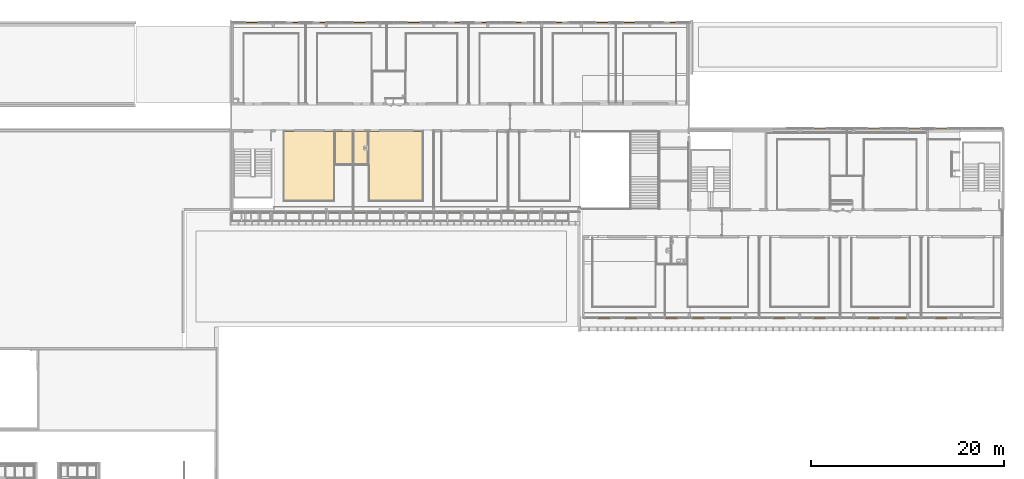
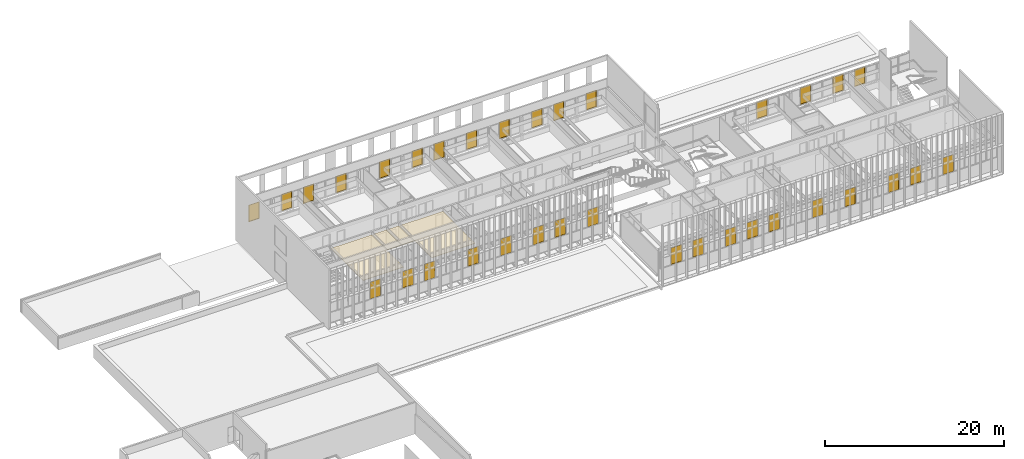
# One storey, part 102 of 106: 34 windows, 4 coverings, 4 elements without a shape of their own.
"""IFC2X3 building model written with IfcOpenShell, lengths in centimetres."""

from ifc_helpers import new_model, entity, si_unit, converted_unit, derived_unit, direction, frame, frame_2d, origin, place, context, subcontext, project, spatial, polyline, rectangle, outline, extrude, faceted_brep, source, transform, mapped, material, material_list, layer, layer_set, layer_usage, type_object, type_shapes, element, aggregate, save


model = new_model("IFC2X3")

# Units and contexts
model_context = context("Model", 3, precision=0.001, world=origin(), true_north=direction((6.12303176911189e-17, 1.0)))
body_context = subcontext(model_context, "Body", "Model", "MODEL_VIEW")
ifc_project = project(units=[si_unit("LENGTHUNIT", "METRE", prefix="CENTI"), si_unit("AREAUNIT", "SQUARE_METRE"), si_unit("VOLUMEUNIT", "CUBIC_METRE"), converted_unit("PLANEANGLEUNIT", "DEGREE", entity("IfcRatioMeasure", 0.0174532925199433), si_unit("PLANEANGLEUNIT", "RADIAN"), dimensions=[0, 0, 0, 0, 0, 0, 0]), si_unit("MASSUNIT", "GRAM", prefix="KILO"), derived_unit("MASSDENSITYUNIT", [(si_unit("MASSUNIT", "GRAM", prefix="KILO"), 1), (si_unit("LENGTHUNIT", "METRE"), -3)]), si_unit("TIMEUNIT", "SECOND"), si_unit("FREQUENCYUNIT", "HERTZ"), si_unit("THERMODYNAMICTEMPERATUREUNIT", "DEGREE_CELSIUS"), derived_unit("THERMALTRANSMITTANCEUNIT", [(si_unit("MASSUNIT", "GRAM", prefix="KILO"), 1), (si_unit("THERMODYNAMICTEMPERATUREUNIT", "KELVIN"), -1), (si_unit("TIMEUNIT", "SECOND"), -3)]), derived_unit("VOLUMETRICFLOWRATEUNIT", [(si_unit("LENGTHUNIT", "METRE"), 3), (si_unit("TIMEUNIT", "SECOND"), -1)]), si_unit("ELECTRICCURRENTUNIT", "AMPERE"), si_unit("ELECTRICVOLTAGEUNIT", "VOLT"), si_unit("POWERUNIT", "WATT"), si_unit("FORCEUNIT", "NEWTON", prefix="KILO"), si_unit("ILLUMINANCEUNIT", "LUX"), si_unit("LUMINOUSFLUXUNIT", "LUMEN"), si_unit("LUMINOUSINTENSITYUNIT", "CANDELA"), derived_unit("USERDEFINED", [(si_unit("MASSUNIT", "GRAM", prefix="KILO"), -1), (si_unit("LENGTHUNIT", "METRE"), -2), (si_unit("TIMEUNIT", "SECOND"), 3), (si_unit("LUMINOUSFLUXUNIT", "LUMEN"), 1)]), derived_unit("LINEARVELOCITYUNIT", [(si_unit("LENGTHUNIT", "METRE"), 1), (si_unit("TIMEUNIT", "SECOND"), -1)]), si_unit("PRESSUREUNIT", "PASCAL"), derived_unit("USERDEFINED", [(si_unit("LENGTHUNIT", "METRE"), -2), (si_unit("MASSUNIT", "GRAM", prefix="KILO"), 1), (si_unit("TIMEUNIT", "SECOND"), -2)])], contexts=[model_context])

# Site, building, storey
site_placement = place(None, frame((-2781.94577612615, 7442.24238424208, 0.0)))
site = spatial("IfcSite", under=ifc_project, at=site_placement, Name="Default", CompositionType="ELEMENT")
building_placement = place(site_placement, origin())
building = spatial("IfcBuilding", under=site, at=building_placement, CompositionType="ELEMENT")
storey_placement = place(building_placement, frame((0.0, 0.0, 422.0)))
storey = spatial("IfcBuildingStorey", under=building, at=storey_placement, Name="Toiture - Cuisine", CompositionType="ELEMENT", Elevation=421.999999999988)

# Curtain wall, windows
curtain_wall_type = type_object("IfcCurtainWallType", Name="Mur-rideau:07 - mur rideau trame 140 cm", PredefinedType="NOTDEFINED")
curtain_wall_1_placement = place(building_placement, origin())
curtain_wall_1 = element("IfcCurtainWall", 1, at=curtain_wall_1_placement, inside=storey, type_object=curtain_wall_type, Name="Mur-rideau:07 - mur rideau trame 140 cm", ObjectType="Mur-rideau:07 - mur rideau trame 140 cm")
ifc_material_1 = material(Name="Verre")
ifc_material_2 = material(Name="Aluminium")
ifc_material_list_1 = material_list([ifc_material_1, ifc_material_2])
ifc_material_list_2 = material_list([ifc_material_1, ifc_material_2])
window_style_1 = type_object("IfcWindowStyle", Name="Ouvrant R+1  - 140", ConstructionType="NOTDEFINED", OperationType="NOTDEFINED", ParameterTakesPrecedence=False, Sizeable=False, material=ifc_material_list_2)
shared_shape_1 = source(origin(), body_context, "Body", "Brep", [
    faceted_brep([(62.13125, -1.295, 222.2625), (-62.1312500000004, -1.295, 222.2625), (-62.1312500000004, -1.295, 7.0), (62.13125, -1.295, 7.0), (62.13125, 0.705000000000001, 7.0), (62.13125, 0.705000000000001, 222.2625), (-62.1312500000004, 0.705000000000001, 7.0), (-62.1312500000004, 0.705000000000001, 222.2625)], [[[0, 1, 2, 3]], [[3, 4, 5, 0]], [[2, 6, 4, 3]], [[1, 7, 6, 2]], [[5, 4, 6, 7]], [[0, 5, 7, 1]]]),
    faceted_brep([(-65.8687500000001, 2.205, 3.0), (66.1312500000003, 2.205, 3.0), (66.1312500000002, -0.794999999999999, 3.0), (-65.8687500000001, -0.794999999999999, 3.0), (66.1312500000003, 2.205, 226.2625), (66.1312500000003, -0.794999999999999, 226.2625), (-65.8687500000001, -0.794999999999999, 226.2625), (64.6312500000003, -0.794999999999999, 224.7625), (64.6312500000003, -0.794999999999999, 4.50000000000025), (-64.3687500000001, -0.794999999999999, 4.50000000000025), (-64.3687500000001, -0.794999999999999, 224.7625), (-65.8687500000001, 2.205, 226.2625), (62.1312500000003, 2.205, 7.0), (62.1312500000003, 2.205, 222.2625), (-61.8687500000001, 2.205, 222.2625), (-61.8687500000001, 2.205, 7.0), (-61.8687500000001, -2.295, 7.0), (62.1312500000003, -2.295, 7.0), (62.1312500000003, -2.295, 222.2625), (-61.8687500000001, -2.295, 222.2625), (64.6312500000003, -2.295, 4.50000000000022), (64.6312500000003, -2.295, 224.7625), (-64.3687500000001, -2.295, 224.7625), (-64.3687500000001, -2.295, 4.50000000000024)], [[[0, 1, 2, 3]], [[1, 4, 5, 2]], [[2, 5, 6, 3], [7, 8, 9, 10]], [[4, 1, 0, 11], [12, 13, 14, 15]], [[16, 17, 12, 15]], [[17, 18, 13, 12]], [[18, 17, 16, 19], [20, 21, 22, 23]], [[9, 8, 20, 23]], [[8, 7, 21, 20]], [[11, 0, 3, 6]], [[19, 16, 15, 14]], [[10, 9, 23, 22]], [[4, 11, 6, 5]], [[18, 19, 14, 13]], [[7, 10, 22, 21]]], outer=[[True], [True], [True, False], [True, False], [True], [True], [False, True], [True], [True], [True], [True], [True], [True], [True], [True]]),
    faceted_brep([(-68.86875, 2.205, 0.0), (69.1312500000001, 2.205, 0.0), (69.1312500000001, -2.295, 0.0), (-68.86875, -2.295, 0.0), (69.1312500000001, 2.205, 229.2625), (69.1312500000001, -2.295, 229.2625), (-68.86875, -2.295, 229.2625), (64.6312500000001, -2.295, 224.7625), (64.6312500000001, -2.295, 4.50000000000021), (-64.36875, -2.295, 4.5000000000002), (-64.36875, -2.295, 224.7625), (-68.86875, 2.205, 229.2625), (66.1312500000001, 2.205, 3.0), (66.1312500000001, 2.205, 226.2625), (-65.86875, 2.205, 226.2625), (-65.86875, 2.205, 3.0), (-65.86875, -0.794999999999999, 3.0), (66.1312500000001, -0.794999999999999, 3.0), (66.1312500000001, -0.794999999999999, 226.2625), (-65.8687499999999, -0.794999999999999, 226.2625), (64.6312500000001, -0.794999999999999, 4.50000000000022), (64.6312500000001, -0.794999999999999, 224.7625), (-64.36875, -0.794999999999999, 224.7625), (-64.36875, -0.794999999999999, 4.50000000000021)], [[[0, 1, 2, 3]], [[1, 4, 5, 2]], [[2, 5, 6, 3], [7, 8, 9, 10]], [[4, 1, 0, 11], [12, 13, 14, 15]], [[16, 17, 12, 15]], [[17, 18, 13, 12]], [[18, 17, 16, 19], [20, 21, 22, 23]], [[9, 8, 20, 23]], [[8, 7, 21, 20]], [[11, 0, 3, 6]], [[19, 16, 15, 14]], [[10, 9, 23, 22]], [[4, 11, 6, 5]], [[18, 19, 14, 13]], [[7, 10, 22, 21]]]),
])
type_shapes(window_style_1, [shared_shape_1])
window_1_placement = place(curtain_wall_1_placement, frame((-3859.50004159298, 26.0, 509.61875), z_axis=(0.0, 0.0, 1.0), x_axis=(-1.0, 0.0, 0.0)))
window_1 = element("IfcWindow", 2, at=window_1_placement, type_object=window_style_1, material=ifc_material_list_1, Name="Ouvrant vitré RDC toute hauteur.0023:Ouvrant R+1  - 140", ObjectType="Ouvrant vitré RDC toute hauteur.0023:Ouvrant R+1  - 140", OverallHeight=229.2625, OverallWidth=138.2625, context=body_context, shape_type="MappedRepresentation", body=[
    mapped(shared_shape_1, transform((0.0, 0.0, 0.0), scale=1.0)),
])
ifc_material_list_3 = material_list([ifc_material_1, ifc_material_2])
window_2_placement = place(curtain_wall_1_placement, frame((-4279.50004159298, 26.0, 509.61875), z_axis=(0.0, 0.0, 1.0), x_axis=(-1.0, 0.0, 0.0)))
window_2 = element("IfcWindow", 3, at=window_2_placement, type_object=window_style_1, material=ifc_material_list_3, Name="Ouvrant vitré RDC toute hauteur.0023:Ouvrant R+1  - 140", ObjectType="Ouvrant vitré RDC toute hauteur.0023:Ouvrant R+1  - 140", OverallHeight=229.2625, OverallWidth=138.2625, context=body_context, shape_type="MappedRepresentation", body=[
    mapped(shared_shape_1, transform((0.0, 0.0, 0.0), scale=1.0)),
])
ifc_material_list_4 = material_list([ifc_material_1, ifc_material_2])
window_3_placement = place(curtain_wall_1_placement, frame((-4559.50004159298, 26.0, 509.61875), z_axis=(0.0, 0.0, 1.0), x_axis=(-1.0, 0.0, 0.0)))
window_3 = element("IfcWindow", 4, at=window_3_placement, type_object=window_style_1, material=ifc_material_list_4, Name="Ouvrant vitré RDC toute hauteur.0023:Ouvrant R+1  - 140", ObjectType="Ouvrant vitré RDC toute hauteur.0023:Ouvrant R+1  - 140", OverallHeight=229.2625, OverallWidth=138.2625, context=body_context, shape_type="MappedRepresentation", body=[
    mapped(shared_shape_1, transform((0.0, 0.0, 0.0), scale=1.0)),
])
ifc_material_list_5 = material_list([ifc_material_1, ifc_material_2])
window_4_placement = place(curtain_wall_1_placement, frame((-4979.50004159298, 26.0, 509.61875), z_axis=(0.0, 0.0, 1.0), x_axis=(-1.0, 0.0, 0.0)))
window_4 = element("IfcWindow", 5, at=window_4_placement, type_object=window_style_1, material=ifc_material_list_5, Name="Ouvrant vitré RDC toute hauteur.0023:Ouvrant R+1  - 140", ObjectType="Ouvrant vitré RDC toute hauteur.0023:Ouvrant R+1  - 140", OverallHeight=229.2625, OverallWidth=138.2625, context=body_context, shape_type="MappedRepresentation", body=[
    mapped(shared_shape_1, transform((0.0, 0.0, 0.0), scale=1.0)),
])
ifc_material_list_6 = material_list([ifc_material_1, ifc_material_2])
window_5_placement = place(curtain_wall_1_placement, frame((-5399.50004159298, 26.0, 509.61875), z_axis=(0.0, 0.0, 1.0), x_axis=(-1.0, 0.0, 0.0)))
window_5 = element("IfcWindow", 6, at=window_5_placement, type_object=window_style_1, material=ifc_material_list_6, Name="Ouvrant vitré RDC toute hauteur.0023:Ouvrant R+1  - 140", ObjectType="Ouvrant vitré RDC toute hauteur.0023:Ouvrant R+1  - 140", OverallHeight=229.2625, OverallWidth=138.2625, context=body_context, shape_type="MappedRepresentation", body=[
    mapped(shared_shape_1, transform((0.0, 0.0, 0.0), scale=1.0)),
])
ifc_material_list_7 = material_list([ifc_material_1, ifc_material_2])
window_6_placement = place(curtain_wall_1_placement, frame((-5819.50004159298, 26.0, 509.61875), z_axis=(0.0, 0.0, 1.0), x_axis=(-1.0, 0.0, 0.0)))
window_6 = element("IfcWindow", 7, at=window_6_placement, type_object=window_style_1, material=ifc_material_list_7, Name="Ouvrant vitré RDC toute hauteur.0023:Ouvrant R+1  - 140", ObjectType="Ouvrant vitré RDC toute hauteur.0023:Ouvrant R+1  - 140", OverallHeight=229.2625, OverallWidth=138.2625, context=body_context, shape_type="MappedRepresentation", body=[
    mapped(shared_shape_1, transform((0.0, 0.0, 0.0), scale=1.0)),
])
ifc_material_list_8 = material_list([ifc_material_1, ifc_material_2])
window_7_placement = place(curtain_wall_1_placement, frame((-6099.50004159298, 26.0, 509.61875), z_axis=(0.0, 0.0, 1.0), x_axis=(-1.0, 0.0, 0.0)))
window_7 = element("IfcWindow", 8, at=window_7_placement, type_object=window_style_1, material=ifc_material_list_8, Name="Ouvrant vitré RDC toute hauteur.0023:Ouvrant R+1  - 140", ObjectType="Ouvrant vitré RDC toute hauteur.0023:Ouvrant R+1  - 140", OverallHeight=229.2625, OverallWidth=138.2625, context=body_context, shape_type="MappedRepresentation", body=[
    mapped(shared_shape_1, transform((0.0, 0.0, 0.0), scale=1.0)),
])
ifc_material_list_9 = material_list([ifc_material_1, ifc_material_2])
window_8_placement = place(curtain_wall_1_placement, frame((-6519.50004159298, 26.0, 509.61875), z_axis=(0.0, 0.0, 1.0), x_axis=(-1.0, 0.0, 0.0)))
window_8 = element("IfcWindow", 9, at=window_8_placement, type_object=window_style_1, material=ifc_material_list_9, Name="Ouvrant vitré RDC toute hauteur.0023:Ouvrant R+1  - 140", ObjectType="Ouvrant vitré RDC toute hauteur.0023:Ouvrant R+1  - 140", OverallHeight=229.2625, OverallWidth=138.2625, context=body_context, shape_type="MappedRepresentation", body=[
    mapped(shared_shape_1, transform((0.0, 0.0, 0.0), scale=1.0)),
])
ifc_material_list_10 = material_list([ifc_material_1, ifc_material_2])
window_9_placement = place(curtain_wall_1_placement, frame((-7079.50004159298, 26.0, 509.61875), z_axis=(0.0, 0.0, 1.0), x_axis=(-1.0, 0.0, 0.0)))
window_9 = element("IfcWindow", 10, at=window_9_placement, type_object=window_style_1, material=ifc_material_list_10, Name="Ouvrant vitré RDC toute hauteur.0023:Ouvrant R+1  - 140", ObjectType="Ouvrant vitré RDC toute hauteur.0023:Ouvrant R+1  - 140", OverallHeight=229.2625, OverallWidth=138.2625, context=body_context, shape_type="MappedRepresentation", body=[
    mapped(shared_shape_1, transform((0.0, 0.0, 0.0), scale=1.0)),
])
ifc_material_list_11 = material_list([ifc_material_1, ifc_material_2])
window_10_placement = place(curtain_wall_1_placement, frame((-7499.50004159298, 26.0, 509.61875), z_axis=(0.0, 0.0, 1.0), x_axis=(-1.0, 0.0, 0.0)))
window_10 = element("IfcWindow", 11, at=window_10_placement, type_object=window_style_1, material=ifc_material_list_11, Name="Ouvrant vitré RDC toute hauteur.0023:Ouvrant R+1  - 140", ObjectType="Ouvrant vitré RDC toute hauteur.0023:Ouvrant R+1  - 140", OverallHeight=229.2625, OverallWidth=138.2625, context=body_context, shape_type="MappedRepresentation", body=[
    mapped(shared_shape_1, transform((0.0, 0.0, 0.0), scale=1.0)),
])
ifc_material_list_12 = material_list([ifc_material_1, ifc_material_2])
window_11_placement = place(curtain_wall_1_placement, frame((-7779.50004159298, 26.0, 509.61875), z_axis=(0.0, 0.0, 1.0), x_axis=(-1.0, 0.0, 0.0)))
window_11 = element("IfcWindow", 12, at=window_11_placement, type_object=window_style_1, material=ifc_material_list_12, Name="Ouvrant vitré RDC toute hauteur.0023:Ouvrant R+1  - 140", ObjectType="Ouvrant vitré RDC toute hauteur.0023:Ouvrant R+1  - 140", OverallHeight=229.2625, OverallWidth=138.2625, context=body_context, shape_type="MappedRepresentation", body=[
    mapped(shared_shape_1, transform((0.0, 0.0, 0.0), scale=1.0)),
])
ifc_material_list_13 = material_list([ifc_material_1, ifc_material_2])
window_12_placement = place(curtain_wall_1_placement, frame((-8199.50004159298, 26.0, 509.61875), z_axis=(0.0, 0.0, 1.0), x_axis=(-1.0, 0.0, 0.0)))
window_12 = element("IfcWindow", 13, at=window_12_placement, type_object=window_style_1, material=ifc_material_list_13, Name="Ouvrant vitré RDC toute hauteur.0023:Ouvrant R+1  - 140", ObjectType="Ouvrant vitré RDC toute hauteur.0023:Ouvrant R+1  - 140", OverallHeight=229.2625, OverallWidth=138.2625, context=body_context, shape_type="MappedRepresentation", body=[
    mapped(shared_shape_1, transform((0.0, 0.0, 0.0), scale=1.0)),
])
aggregate(curtain_wall_1, [window_1, window_2, window_3, window_4, window_5, window_6, window_7, window_8, window_9, window_10, window_11, window_12])

curtain_wall_2_placement = place(building_placement, origin())
curtain_wall_2 = element("IfcCurtainWall", 14, at=curtain_wall_2_placement, inside=storey, type_object=curtain_wall_type, Name="Mur-rideau:07 - mur rideau trame 140 cm", ObjectType="Mur-rideau:07 - mur rideau trame 140 cm")
ifc_material_list_14 = material_list([ifc_material_1, ifc_material_2])
window_13_placement = place(curtain_wall_2_placement, frame((-7779.49987763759, -1946.27903364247, 509.61875)))
window_13 = element("IfcWindow", 15, at=window_13_placement, type_object=window_style_1, material=ifc_material_list_14, Name="Ouvrant vitré RDC toute hauteur.0023:Ouvrant R+1  - 140", ObjectType="Ouvrant vitré RDC toute hauteur.0023:Ouvrant R+1  - 140", OverallHeight=229.2625, OverallWidth=138.2625, context=body_context, shape_type="MappedRepresentation", body=[
    mapped(shared_shape_1, transform((0.0, 0.0, 0.0), scale=1.0)),
])
ifc_material_list_15 = material_list([ifc_material_1, ifc_material_2])
window_14_placement = place(curtain_wall_2_placement, frame((-7359.49987763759, -1946.27903364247, 509.61875)))
window_14 = element("IfcWindow", 16, at=window_14_placement, type_object=window_style_1, material=ifc_material_list_15, Name="Ouvrant vitré RDC toute hauteur.0023:Ouvrant R+1  - 140", ObjectType="Ouvrant vitré RDC toute hauteur.0023:Ouvrant R+1  - 140", OverallHeight=229.2625, OverallWidth=138.2625, context=body_context, shape_type="MappedRepresentation", body=[
    mapped(shared_shape_1, transform((0.0, 0.0, 0.0), scale=1.0)),
])
ifc_material_list_16 = material_list([ifc_material_1, ifc_material_2])
window_15_placement = place(curtain_wall_2_placement, frame((-7079.49987763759, -1946.27903364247, 509.61875)))
window_15 = element("IfcWindow", 17, at=window_15_placement, type_object=window_style_1, material=ifc_material_list_16, Name="Ouvrant vitré RDC toute hauteur.0023:Ouvrant R+1  - 140", ObjectType="Ouvrant vitré RDC toute hauteur.0023:Ouvrant R+1  - 140", OverallHeight=229.2625, OverallWidth=138.2625, context=body_context, shape_type="MappedRepresentation", body=[
    mapped(shared_shape_1, transform((0.0, 0.0, 0.0), scale=1.0)),
])
ifc_material_list_17 = material_list([ifc_material_1, ifc_material_2])
window_16_placement = place(curtain_wall_2_placement, frame((-6519.49987763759, -1946.27903364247, 509.61875)))
window_16 = element("IfcWindow", 18, at=window_16_placement, type_object=window_style_1, material=ifc_material_list_17, Name="Ouvrant vitré RDC toute hauteur.0023:Ouvrant R+1  - 140", ObjectType="Ouvrant vitré RDC toute hauteur.0023:Ouvrant R+1  - 140", OverallHeight=229.2625, OverallWidth=138.2625, context=body_context, shape_type="MappedRepresentation", body=[
    mapped(shared_shape_1, transform((0.0, 0.0, 0.0), scale=1.0)),
])
ifc_material_list_18 = material_list([ifc_material_1, ifc_material_2])
window_17_placement = place(curtain_wall_2_placement, frame((-6099.49987763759, -1946.27903364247, 509.61875)))
window_17 = element("IfcWindow", 19, at=window_17_placement, type_object=window_style_1, material=ifc_material_list_18, Name="Ouvrant vitré RDC toute hauteur.0023:Ouvrant R+1  - 140", ObjectType="Ouvrant vitré RDC toute hauteur.0023:Ouvrant R+1  - 140", OverallHeight=229.2625, OverallWidth=138.2625, context=body_context, shape_type="MappedRepresentation", body=[
    mapped(shared_shape_1, transform((0.0, 0.0, 0.0), scale=1.0)),
])
ifc_material_list_19 = material_list([ifc_material_1, ifc_material_2])
window_18_placement = place(curtain_wall_2_placement, frame((-5679.49987763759, -1946.27903364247, 509.61875)))
window_18 = element("IfcWindow", 20, at=window_18_placement, type_object=window_style_1, material=ifc_material_list_19, Name="Ouvrant vitré RDC toute hauteur.0023:Ouvrant R+1  - 140", ObjectType="Ouvrant vitré RDC toute hauteur.0023:Ouvrant R+1  - 140", OverallHeight=229.2625, OverallWidth=138.2625, context=body_context, shape_type="MappedRepresentation", body=[
    mapped(shared_shape_1, transform((0.0, 0.0, 0.0), scale=1.0)),
])
ifc_material_list_20 = material_list([ifc_material_1, ifc_material_2])
window_19_placement = place(curtain_wall_2_placement, frame((-5399.49987763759, -1946.27903364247, 509.61875)))
window_19 = element("IfcWindow", 21, at=window_19_placement, type_object=window_style_1, material=ifc_material_list_20, Name="Ouvrant vitré RDC toute hauteur.0023:Ouvrant R+1  - 140", ObjectType="Ouvrant vitré RDC toute hauteur.0023:Ouvrant R+1  - 140", OverallHeight=229.2625, OverallWidth=138.2625, context=body_context, shape_type="MappedRepresentation", body=[
    mapped(shared_shape_1, transform((0.0, 0.0, 0.0), scale=1.0)),
])
ifc_material_list_21 = material_list([ifc_material_1, ifc_material_2])
window_20_placement = place(curtain_wall_2_placement, frame((-4979.49987763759, -1946.27903364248, 509.61875)))
window_20 = element("IfcWindow", 22, at=window_20_placement, type_object=window_style_1, material=ifc_material_list_21, Name="Ouvrant vitré RDC toute hauteur.0023:Ouvrant R+1  - 140", ObjectType="Ouvrant vitré RDC toute hauteur.0023:Ouvrant R+1  - 140", OverallHeight=229.2625, OverallWidth=138.2625, context=body_context, shape_type="MappedRepresentation", body=[
    mapped(shared_shape_1, transform((0.0, 0.0, 0.0), scale=1.0)),
])
aggregate(curtain_wall_2, [window_13, window_14, window_15, window_16, window_17, window_18, window_19, window_20])

curtain_wall_3_placement = place(building_placement, origin())
curtain_wall_3 = element("IfcCurtainWall", 23, at=curtain_wall_3_placement, inside=storey, type_object=curtain_wall_type, Name="Mur-rideau:07 - mur rideau trame 140 cm", ObjectType="Mur-rideau:07 - mur rideau trame 140 cm")
ifc_material_list_22 = material_list([ifc_material_1, ifc_material_2])
window_21_placement = place(curtain_wall_3_placement, frame((-4540.29988284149, -3046.51349958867, 509.618750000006)))
window_21 = element("IfcWindow", 24, at=window_21_placement, type_object=window_style_1, material=ifc_material_list_22, Name="Ouvrant vitré RDC toute hauteur.0023:Ouvrant R+1  - 140", ObjectType="Ouvrant vitré RDC toute hauteur.0023:Ouvrant R+1  - 140", OverallHeight=229.2625, OverallWidth=138.2625, context=body_context, shape_type="MappedRepresentation", body=[
    mapped(shared_shape_1, transform((0.0, 0.0, 0.0), scale=1.0)),
])
ifc_material_list_23 = material_list([ifc_material_1, ifc_material_2])
window_22_placement = place(curtain_wall_3_placement, frame((-4260.29988284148, -3046.51349958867, 509.618750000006)))
window_22 = element("IfcWindow", 25, at=window_22_placement, type_object=window_style_1, material=ifc_material_list_23, Name="Ouvrant vitré RDC toute hauteur.0023:Ouvrant R+1  - 140", ObjectType="Ouvrant vitré RDC toute hauteur.0023:Ouvrant R+1  - 140", OverallHeight=229.2625, OverallWidth=138.2625, context=body_context, shape_type="MappedRepresentation", body=[
    mapped(shared_shape_1, transform((0.0, 0.0, 0.0), scale=1.0)),
])
ifc_material_list_24 = material_list([ifc_material_1, ifc_material_2])
window_23_placement = place(curtain_wall_3_placement, frame((-3840.29988284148, -3046.51349958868, 509.618750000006)))
window_23 = element("IfcWindow", 26, at=window_23_placement, type_object=window_style_1, material=ifc_material_list_24, Name="Ouvrant vitré RDC toute hauteur.0023:Ouvrant R+1  - 140", ObjectType="Ouvrant vitré RDC toute hauteur.0023:Ouvrant R+1  - 140", OverallHeight=229.2625, OverallWidth=138.2625, context=body_context, shape_type="MappedRepresentation", body=[
    mapped(shared_shape_1, transform((0.0, 0.0, 0.0), scale=1.0)),
])
ifc_material_list_25 = material_list([ifc_material_1, ifc_material_2])
window_24_placement = place(curtain_wall_3_placement, frame((-3560.29988284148, -3046.51349958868, 509.618750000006)))
window_24 = element("IfcWindow", 27, at=window_24_placement, type_object=window_style_1, material=ifc_material_list_25, Name="Ouvrant vitré RDC toute hauteur.0023:Ouvrant R+1  - 140", ObjectType="Ouvrant vitré RDC toute hauteur.0023:Ouvrant R+1  - 140", OverallHeight=229.2625, OverallWidth=138.2625, context=body_context, shape_type="MappedRepresentation", body=[
    mapped(shared_shape_1, transform((0.0, 0.0, 0.0), scale=1.0)),
])
ifc_material_list_26 = material_list([ifc_material_1, ifc_material_2])
window_25_placement = place(curtain_wall_3_placement, frame((-3280.29988284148, -3046.51349958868, 509.618750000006)))
window_25 = element("IfcWindow", 28, at=window_25_placement, type_object=window_style_1, material=ifc_material_list_26, Name="Ouvrant vitré RDC toute hauteur.0023:Ouvrant R+1  - 140", ObjectType="Ouvrant vitré RDC toute hauteur.0023:Ouvrant R+1  - 140", OverallHeight=229.2625, OverallWidth=138.2625, context=body_context, shape_type="MappedRepresentation", body=[
    mapped(shared_shape_1, transform((0.0, 0.0, 0.0), scale=1.0)),
])
ifc_material_list_27 = material_list([ifc_material_1, ifc_material_2])
window_26_placement = place(curtain_wall_3_placement, frame((-2720.29988284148, -3046.51349958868, 509.618750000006)))
window_26 = element("IfcWindow", 29, at=window_26_placement, type_object=window_style_1, material=ifc_material_list_27, Name="Ouvrant vitré RDC toute hauteur.0023:Ouvrant R+1  - 140", ObjectType="Ouvrant vitré RDC toute hauteur.0023:Ouvrant R+1  - 140", OverallHeight=229.2625, OverallWidth=138.2625, context=body_context, shape_type="MappedRepresentation", body=[
    mapped(shared_shape_1, transform((0.0, 0.0, 0.0), scale=1.0)),
])
ifc_material_list_28 = material_list([ifc_material_1, ifc_material_2])
window_27_placement = place(curtain_wall_3_placement, frame((-2300.29988284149, -3046.51349958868, 509.618750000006)))
window_27 = element("IfcWindow", 30, at=window_27_placement, type_object=window_style_1, material=ifc_material_list_28, Name="Ouvrant vitré RDC toute hauteur.0023:Ouvrant R+1  - 140", ObjectType="Ouvrant vitré RDC toute hauteur.0023:Ouvrant R+1  - 140", OverallHeight=229.2625, OverallWidth=138.2625, context=body_context, shape_type="MappedRepresentation", body=[
    mapped(shared_shape_1, transform((0.0, 0.0, 0.0), scale=1.0)),
])
ifc_material_list_29 = material_list([ifc_material_1, ifc_material_2])
window_28_placement = place(curtain_wall_3_placement, frame((-1740.29988284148, -3046.51349958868, 509.618750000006)))
window_28 = element("IfcWindow", 31, at=window_28_placement, type_object=window_style_1, material=ifc_material_list_29, Name="Ouvrant vitré RDC toute hauteur.0023:Ouvrant R+1  - 140", ObjectType="Ouvrant vitré RDC toute hauteur.0023:Ouvrant R+1  - 140", OverallHeight=229.2625, OverallWidth=138.2625, context=body_context, shape_type="MappedRepresentation", body=[
    mapped(shared_shape_1, transform((0.0, 0.0, 0.0), scale=1.0)),
])
ifc_material_list_30 = material_list([ifc_material_1, ifc_material_2])
window_29_placement = place(curtain_wall_3_placement, frame((-1460.29988284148, -3046.51349958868, 509.618750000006)))
window_29 = element("IfcWindow", 32, at=window_29_placement, type_object=window_style_1, material=ifc_material_list_30, Name="Ouvrant vitré RDC toute hauteur.0023:Ouvrant R+1  - 140", ObjectType="Ouvrant vitré RDC toute hauteur.0023:Ouvrant R+1  - 140", OverallHeight=229.2625, OverallWidth=138.2625, context=body_context, shape_type="MappedRepresentation", body=[
    mapped(shared_shape_1, transform((0.0, 0.0, 0.0), scale=1.0)),
])
ifc_material_list_31 = material_list([ifc_material_1, ifc_material_2])
window_30_placement = place(curtain_wall_3_placement, frame((-1040.29988284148, -3046.51349958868, 509.618750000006)))
window_30 = element("IfcWindow", 33, at=window_30_placement, type_object=window_style_1, material=ifc_material_list_31, Name="Ouvrant vitré RDC toute hauteur.0023:Ouvrant R+1  - 140", ObjectType="Ouvrant vitré RDC toute hauteur.0023:Ouvrant R+1  - 140", OverallHeight=229.2625, OverallWidth=138.2625, context=body_context, shape_type="MappedRepresentation", body=[
    mapped(shared_shape_1, transform((0.0, 0.0, 0.0), scale=1.0)),
])
aggregate(curtain_wall_3, [window_21, window_22, window_23, window_24, window_25, window_26, window_27, window_28, window_29, window_30])

curtain_wall_4_placement = place(building_placement, origin())
curtain_wall_4 = element("IfcCurtainWall", 34, at=curtain_wall_4_placement, inside=storey, type_object=curtain_wall_type, Name="Mur-rideau:07 - mur rideau trame 140 cm", ObjectType="Mur-rideau:07 - mur rideau trame 140 cm")
ifc_material_list_32 = material_list([ifc_material_1, ifc_material_2])
ifc_material_list_33 = material_list([ifc_material_1, ifc_material_2])
window_style_2 = type_object("IfcWindowStyle", Name="Ouvrant R+1  - 140", ConstructionType="NOTDEFINED", OperationType="NOTDEFINED", ParameterTakesPrecedence=False, Sizeable=False, material=ifc_material_list_33)
shared_shape_2 = source(origin(), body_context, "Body", "Brep", [
    faceted_brep([(62.1312499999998, 1.295, 222.2625), (62.1312499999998, 1.295, 7.0), (-62.1312500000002, 1.295, 7.0), (-62.1312500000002, 1.295, 222.2625), (62.1312499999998, -0.705000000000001, 222.2625), (62.1312499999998, -0.705000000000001, 7.0), (-62.1312500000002, -0.705000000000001, 7.0), (-62.1312500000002, -0.705000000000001, 222.2625)], [[[0, 1, 2, 3]], [[1, 0, 4, 5]], [[2, 1, 5, 6]], [[3, 2, 6, 7]], [[4, 7, 6, 5]], [[0, 3, 7, 4]]]),
    faceted_brep([(-65.8687500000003, -2.205, 3.0), (-65.8687500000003, 0.794999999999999, 3.0), (66.1312500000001, 0.794999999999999, 3.0), (66.1312500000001, -2.205, 3.0), (66.13125, 0.794999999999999, 226.2625), (66.1312500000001, -2.205, 226.2625), (-65.8687500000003, 0.794999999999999, 226.2625), (64.6312500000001, 0.794999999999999, 224.7625), (-64.3687500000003, 0.794999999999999, 224.7625), (-64.3687500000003, 0.794999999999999, 4.50000000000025), (64.6312500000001, 0.794999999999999, 4.50000000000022), (62.13125, -2.205, 7.0), (-61.8687500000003, -2.205, 7.0), (-61.8687500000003, -2.205, 222.2625), (62.1312500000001, -2.205, 222.2625), (-65.8687500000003, -2.205, 226.2625), (-61.8687500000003, 2.295, 7.0), (62.13125, 2.295, 7.0), (62.1312500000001, 2.295, 222.2625), (64.63125, 2.295, 4.50000000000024), (-64.3687500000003, 2.295, 4.50000000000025), (-64.3687500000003, 2.295, 224.7625), (64.6312500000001, 2.295, 224.7625), (-61.8687500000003, 2.295, 222.2625)], [[[0, 1, 2, 3]], [[3, 2, 4, 5]], [[2, 1, 6, 4], [7, 8, 9, 10]], [[11, 12, 13, 14], [5, 15, 0, 3]], [[16, 12, 11, 17]], [[17, 11, 14, 18]], [[19, 20, 21, 22], [18, 23, 16, 17]], [[9, 20, 19, 10]], [[10, 19, 22, 7]], [[15, 6, 1, 0]], [[23, 13, 12, 16]], [[8, 21, 20, 9]], [[5, 4, 6, 15]], [[18, 14, 13, 23]], [[7, 22, 21, 8]]], outer=[[True], [True], [True, False], [False, True], [True], [True], [True, False], [True], [True], [True], [True], [True], [True], [True], [True]]),
    faceted_brep([(-68.8687500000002, -2.205, 0.0), (-68.8687500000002, 2.295, 0.0), (69.1312499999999, 2.295, 0.0), (69.1312499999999, -2.205, 0.0), (69.1312499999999, 2.295, 229.2625), (69.1312499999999, -2.205, 229.2625), (-68.8687500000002, 2.295, 229.2625), (64.6312499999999, 2.295, 224.7625), (-64.3687500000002, 2.295, 224.7625), (-64.3687500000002, 2.295, 4.50000000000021), (64.6312499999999, 2.295, 4.50000000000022), (66.1312499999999, -2.205, 3.0), (-65.8687500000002, -2.205, 3.0), (-65.8687500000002, -2.205, 226.2625), (66.1312499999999, -2.205, 226.2625), (-68.8687500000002, -2.205, 229.2625), (-65.8687500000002, 0.794999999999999, 3.0), (66.1312499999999, 0.794999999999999, 3.0), (66.1312499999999, 0.794999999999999, 226.2625), (64.6312499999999, 0.794999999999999, 4.50000000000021), (-64.3687500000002, 0.794999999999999, 4.5000000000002), (-64.3687500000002, 0.794999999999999, 224.7625), (64.6312499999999, 0.794999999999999, 224.7625), (-65.8687500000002, 0.794999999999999, 226.2625)], [[[0, 1, 2, 3]], [[3, 2, 4, 5]], [[2, 1, 6, 4], [7, 8, 9, 10]], [[11, 12, 13, 14], [5, 15, 0, 3]], [[16, 12, 11, 17]], [[17, 11, 14, 18]], [[19, 20, 21, 22], [18, 23, 16, 17]], [[9, 20, 19, 10]], [[10, 19, 22, 7]], [[15, 6, 1, 0]], [[23, 13, 12, 16]], [[8, 21, 20, 9]], [[5, 4, 6, 15]], [[18, 14, 13, 23]], [[7, 22, 21, 8]]], outer=[[True], [True], [True, False], [False, True], [True], [True], [False, True], [True], [True], [True], [True], [True], [True], [True], [True]]),
])
type_shapes(window_style_2, [shared_shape_2])
window_31_placement = place(curtain_wall_4_placement, frame((-2299.29988284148, -1073.7999999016, 509.61875)))
window_31 = element("IfcWindow", 35, at=window_31_placement, type_object=window_style_2, material=ifc_material_list_32, Name="Ouvrant vitré RDC toute hauteur.0023:Ouvrant R+1  - 140", ObjectType="Ouvrant vitré RDC toute hauteur.0023:Ouvrant R+1  - 140", OverallHeight=229.2625, OverallWidth=138.2625, context=body_context, shape_type="MappedRepresentation", body=[
    mapped(shared_shape_2, transform((0.0, 0.0, 0.0), scale=1.0)),
])
ifc_material_list_34 = material_list([ifc_material_1, ifc_material_2])
window_32_placement = place(curtain_wall_4_placement, frame((-1739.29988284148, -1073.7999999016, 509.61875)))
window_32 = element("IfcWindow", 36, at=window_32_placement, type_object=window_style_2, material=ifc_material_list_34, Name="Ouvrant vitré RDC toute hauteur.0023:Ouvrant R+1  - 140", ObjectType="Ouvrant vitré RDC toute hauteur.0023:Ouvrant R+1  - 140", OverallHeight=229.2625, OverallWidth=138.2625, context=body_context, shape_type="MappedRepresentation", body=[
    mapped(shared_shape_2, transform((0.0, 0.0, 0.0), scale=1.0)),
])
ifc_material_list_35 = material_list([ifc_material_1, ifc_material_2])
window_33_placement = place(curtain_wall_4_placement, frame((-1319.29988284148, -1073.7999999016, 509.61875)))
window_33 = element("IfcWindow", 37, at=window_33_placement, type_object=window_style_2, material=ifc_material_list_35, Name="Ouvrant vitré RDC toute hauteur.0023:Ouvrant R+1  - 140", ObjectType="Ouvrant vitré RDC toute hauteur.0023:Ouvrant R+1  - 140", OverallHeight=229.2625, OverallWidth=138.2625, context=body_context, shape_type="MappedRepresentation", body=[
    mapped(shared_shape_2, transform((0.0, 0.0, 0.0), scale=1.0)),
])
ifc_material_list_36 = material_list([ifc_material_1, ifc_material_2])
window_34_placement = place(curtain_wall_4_placement, frame((-1039.29988284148, -1073.7999999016, 509.61875)))
window_34 = element("IfcWindow", 38, at=window_34_placement, type_object=window_style_2, material=ifc_material_list_36, Name="Ouvrant vitré RDC toute hauteur.0023:Ouvrant R+1  - 140", ObjectType="Ouvrant vitré RDC toute hauteur.0023:Ouvrant R+1  - 140", OverallHeight=229.2625, OverallWidth=138.2625, context=body_context, shape_type="MappedRepresentation", body=[
    mapped(shared_shape_2, transform((0.0, 0.0, 0.0), scale=1.0)),
])
aggregate(curtain_wall_4, [window_31, window_32, window_33, window_34])

# Space
space_1_placement = place(building_placement, frame((0.0, 0.0, 422.0)))
space_1 = spatial("IfcSpace", under=storey, at=space_1_placement, Name="A-1", CompositionType="ELEMENT", InteriorOrExteriorSpace="INTERNAL")

# Covering
ifc_material_3 = material(Name="00 - VIDE D'AIR")
ifc_layer_1 = layer(ifc_material_3, 5.7)
ifc_material_4 = material(Name="01 - Enduit/Plâtre - faux plafonds")
ifc_layer_2 = layer(ifc_material_4, 1.3)
ifc_layer_set = layer_set([ifc_layer_1, ifc_layer_2], Name="Plafond composé:11-Plafond 1BA13")
ifc_layer_usage_1 = layer_usage(ifc_layer_set, "AXIS3", "POSITIVE", 0.0)
covering_type_1 = type_object("IfcCoveringType", Name="Plafond composé:11-Plafond 1BA13", PredefinedType="CEILING")
covering_1_placement = place(space_1_placement, origin())
element("IfcCovering", 39, at=covering_1_placement, inside=space_1, type_object=covering_type_1, material=ifc_layer_usage_1, Name="Plafond composé:11-Plafond 1BA13", ObjectType="Plafond composé:11-Plafond 1BA13", PredefinedType="CEILING", context=body_context, shape_type="SweptSolid", body=[
    extrude(outline(polyline([(-355.359677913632, -187.666666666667), (-7.35967791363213, -187.666666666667), (-7.35967791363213, -185.666666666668), (362.719355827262, -185.666666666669), (362.719355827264, 373.333333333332), (-355.35967791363, 373.333333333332), (-355.359677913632, -187.666666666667)])), frame((-6797.83321093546, -1465.35967781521, 270.0), z_axis=(0.0, 0.0, 1.0), x_axis=(0.0, -1.0, 0.0)), (0.0, 0.0, 1.0), 7.00000000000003),
])

# Space
space_2_placement = place(building_placement, frame((0.0, 0.0, 422.0)))
space_2 = spatial("IfcSpace", under=storey, at=space_2_placement, Name="E-8.5", CompositionType="ELEMENT", InteriorOrExteriorSpace="INTERNAL")

# Covering
ifc_layer_usage_2 = layer_usage(ifc_layer_set, "AXIS3", "POSITIVE", 0.0)
covering_type_2 = type_object("IfcCoveringType", Name="Plafond composé:11-Plafond 1BA13", PredefinedType="CEILING")
covering_2_placement = place(space_2_placement, origin())
element("IfcCovering", 40, at=covering_2_placement, inside=space_2, type_object=covering_type_2, material=ifc_layer_usage_2, Name="Plafond composé:11-Plafond 1BA13", ObjectType="Plafond composé:11-Plafond 1BA13", PredefinedType="CEILING", context=body_context, shape_type="SweptSolid", body=[
    extrude(rectangle(XDim=149.000000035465, YDim=338.0, at=frame_2d((0.0, -2.1316282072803e-13), x_axis=(1.0, 0.0))), frame((-7069.99987761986, -1279.0, 270.0)), (0.0, 0.0, 1.0), 7.00000000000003),
])

# Space
space_3_placement = place(building_placement, frame((0.0, 0.0, 422.0)))
space_3 = spatial("IfcSpace", under=storey, at=space_3_placement, Name="A-3", CompositionType="ELEMENT", InteriorOrExteriorSpace="INTERNAL")

# Covering
ifc_layer_usage_3 = layer_usage(ifc_layer_set, "AXIS3", "POSITIVE", 0.0)
covering_type_3 = type_object("IfcCoveringType", Name="Plafond composé:11-Plafond 1BA13", PredefinedType="CEILING")
covering_3_placement = place(space_3_placement, origin())
element("IfcCovering", 41, at=covering_3_placement, inside=space_3, type_object=covering_type_3, material=ifc_layer_usage_3, Name="Plafond composé:11-Plafond 1BA13", ObjectType="Plafond composé:11-Plafond 1BA13", PredefinedType="CEILING", context=body_context, shape_type="SweptSolid", body=[
    extrude(rectangle(XDim=177.999999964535, YDim=338.0, at=frame_2d((4.33431068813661e-13, -2.1316282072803e-13), x_axis=(1.0, 0.0))), frame((-7243.49987761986, -1279.0, 270.0)), (0.0, 0.0, 1.0), 7.00000000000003),
])

# Space
space_4_placement = place(building_placement, frame((0.0, 0.0, 422.0)))
space_4 = spatial("IfcSpace", under=storey, at=space_4_placement, Name="A-1", CompositionType="ELEMENT", InteriorOrExteriorSpace="INTERNAL")

# Covering
ifc_layer_usage_4 = layer_usage(ifc_layer_set, "AXIS3", "POSITIVE", 0.0)
covering_type_4 = type_object("IfcCoveringType", Name="Plafond composé:11-Plafond 1BA13", PredefinedType="CEILING")
covering_4_placement = place(space_4_placement, origin())
element("IfcCovering", 42, at=covering_4_placement, inside=space_4, type_object=covering_type_4, material=ifc_layer_usage_4, Name="Plafond composé:11-Plafond 1BA13", ObjectType="Plafond composé:11-Plafond 1BA13", PredefinedType="CEILING", context=body_context, shape_type="SweptSolid", body=[
    extrude(outline(polyline([(-355.359677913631, -349.333442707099), (362.719355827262, -349.333442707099), (362.719355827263, 173.66672135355), (-7.35967791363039, 173.66672135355), (-7.35967791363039, 175.666721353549), (-355.359677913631, 175.666721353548), (-355.359677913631, -349.333442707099)])), frame((-7518.16659895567, -1465.3596778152, 270.0), z_axis=(0.0, 0.0, 1.0), x_axis=(0.0, -1.0, 0.0)), (0.0, 0.0, 1.0), 7.00000000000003),
])

save(model, "model.ifc")
